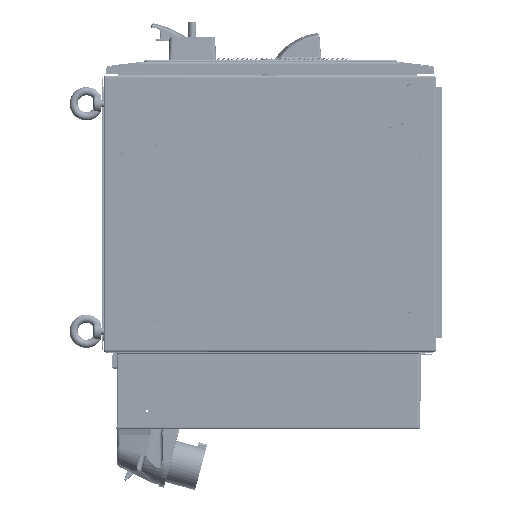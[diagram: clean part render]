
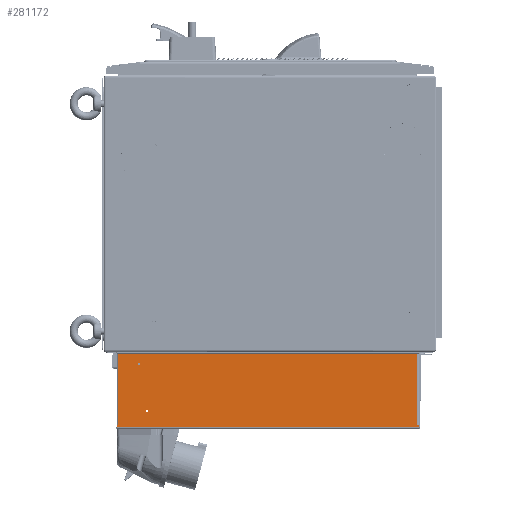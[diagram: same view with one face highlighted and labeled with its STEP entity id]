
A CAD part, left-side view. The second image highlights one B-rep face of the part: STEP entity #281172.
In plain terms, the highlighted planar face has unit normal (-1, 0, 0).
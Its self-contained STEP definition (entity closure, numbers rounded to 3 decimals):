
#2441 = AXIS2_PLACEMENT_3D ( 'NONE', #910513, #693181, #239432 ) ;
#22171 = LINE ( 'NONE', #308472, #426024 ) ;
#29174 = DIRECTION ( 'NONE',  ( 0., 0., 1. ) ) ;
#30072 = VECTOR ( 'NONE', #904820, 1000. ) ;
#33285 = VECTOR ( 'NONE', #832707, 1000. ) ;
#50266 = VERTEX_POINT ( 'NONE', #597811 ) ;
#55801 = EDGE_LOOP ( 'NONE', ( #224767, #88664 ) ) ;
#88664 = ORIENTED_EDGE ( 'NONE', *, *, #134381, .F. ) ;
#90083 = CARTESIAN_POINT ( 'NONE',  ( -276.25, 245.75, -317.25 ) ) ;
#103016 = CARTESIAN_POINT ( 'NONE',  ( -276.25, 245.75, -314.6 ) ) ;
#112045 = CARTESIAN_POINT ( 'NONE',  ( -276.25, 245.75, -311.15 ) ) ;
#116434 = EDGE_LOOP ( 'NONE', ( #744431, #830665 ) ) ;
#134381 = EDGE_CURVE ( 'NONE', #369890, #546132, #890930, .T. ) ;
#140425 = ORIENTED_EDGE ( 'NONE', *, *, #667400, .T. ) ;
#146622 = DIRECTION ( 'NONE',  ( 0., -1., 0. ) ) ;
#149500 = FACE_BOUND ( 'NONE', #55801, .T. ) ;
#150439 = VERTEX_POINT ( 'NONE', #455138 ) ;
#162957 = EDGE_CURVE ( 'NONE', #50266, #600506, #900165, .T. ) ;
#164318 = ORIENTED_EDGE ( 'NONE', *, *, #868021, .T. ) ;
#170506 = CARTESIAN_POINT ( 'NONE',  ( -276.25, 22.891, -206.65 ) ) ;
#173113 = ORIENTED_EDGE ( 'NONE', *, *, #162957, .T. ) ;
#177090 = LINE ( 'NONE', #103016, #676890 ) ;
#183724 = DIRECTION ( 'NONE',  ( 0., 0., 1. ) ) ;
#198644 = EDGE_CURVE ( 'NONE', #672262, #366120, #521583, .T. ) ;
#200222 = EDGE_CURVE ( 'NONE', #750691, #406446, #22171, .T. ) ;
#214067 = EDGE_CURVE ( 'NONE', #672262, #343340, #527508, .T. ) ;
#218637 = FACE_OUTER_BOUND ( 'NONE', #685866, .T. ) ;
#223961 = DIRECTION ( 'NONE',  ( 0., -1., 0. ) ) ;
#224210 = DIRECTION ( 'NONE',  ( 0., 0., -1. ) ) ;
#224767 = ORIENTED_EDGE ( 'NONE', *, *, #231403, .F. ) ;
#231403 = EDGE_CURVE ( 'NONE', #546132, #369890, #743235, .T. ) ;
#231734 = DIRECTION ( 'NONE',  ( 0., -1., 0. ) ) ;
#233300 = DIRECTION ( 'NONE',  ( -1., 0., 0. ) ) ;
#233713 = LINE ( 'NONE', #524940, #526774 ) ;
#239432 = DIRECTION ( 'NONE',  ( 0., 0., 1. ) ) ;
#241459 = ORIENTED_EDGE ( 'NONE', *, *, #481283, .T. ) ;
#248927 = VECTOR ( 'NONE', #898784, 1000. ) ;
#265659 = VERTEX_POINT ( 'NONE', #334608 ) ;
#279738 = CARTESIAN_POINT ( 'NONE',  ( -276.25, 245.75, -311.15 ) ) ;
#281172 = ADVANCED_FACE ( 'NONE', ( #593645, #149500, #218637 ), #751440, .T. ) ;
#302179 = AXIS2_PLACEMENT_3D ( 'NONE', #474853, #405682, #183724 ) ;
#308401 = DIRECTION ( 'NONE',  ( 0., 0., -1. ) ) ;
#308472 = CARTESIAN_POINT ( 'NONE',  ( -276.25, 25.541, -311.15 ) ) ;
#308478 = CIRCLE ( 'NONE', #323973, 1.75 ) ;
#311503 = CARTESIAN_POINT ( 'NONE',  ( -276.25, 468.609, -317.25 ) ) ;
#319627 = CARTESIAN_POINT ( 'NONE',  ( -276.25, 468.609, -207. ) ) ;
#323973 = AXIS2_PLACEMENT_3D ( 'NONE', #867754, #788897, #29174 ) ;
#334608 = CARTESIAN_POINT ( 'NONE',  ( -276.25, 435.455, -223.363 ) ) ;
#343340 = VERTEX_POINT ( 'NONE', #319627 ) ;
#346581 = ORIENTED_EDGE ( 'NONE', *, *, #622756, .F. ) ;
#366120 = VERTEX_POINT ( 'NONE', #170506 ) ;
#369890 = VERTEX_POINT ( 'NONE', #728665 ) ;
#374512 = CARTESIAN_POINT ( 'NONE',  ( -276.25, 468.609, -317.25 ) ) ;
#376822 = CARTESIAN_POINT ( 'NONE',  ( -276.25, 245.75, -207. ) ) ;
#386560 = AXIS2_PLACEMENT_3D ( 'NONE', #905785, #516241, #743165 ) ;
#392088 = DIRECTION ( 'NONE',  ( 0., 0., 1. ) ) ;
#405682 = DIRECTION ( 'NONE',  ( -1., 0., 0. ) ) ;
#406446 = VERTEX_POINT ( 'NONE', #668258 ) ;
#409657 = EDGE_CURVE ( 'NONE', #885200, #265659, #821933, .T. ) ;
#415524 = CARTESIAN_POINT ( 'NONE',  ( -276.25, 423.3, -288.8 ) ) ;
#426024 = VECTOR ( 'NONE', #392088, 1000. ) ;
#432413 = LINE ( 'NONE', #112045, #959716 ) ;
#455124 = EDGE_CURVE ( 'NONE', #366120, #503090, #525612, .T. ) ;
#455138 = CARTESIAN_POINT ( 'NONE',  ( -276.25, 468.609, -311.15 ) ) ;
#462503 = CARTESIAN_POINT ( 'NONE',  ( -276.25, 22.891, -317.25 ) ) ;
#464120 = ORIENTED_EDGE ( 'NONE', *, *, #200222, .T. ) ;
#474853 = CARTESIAN_POINT ( 'NONE',  ( -276.25, 435.455, -221.613 ) ) ;
#479579 = DIRECTION ( 'NONE',  ( 0., 0., 1. ) ) ;
#481283 = EDGE_CURVE ( 'NONE', #343340, #50266, #233713, .T. ) ;
#496955 = LINE ( 'NONE', #279738, #656228 ) ;
#503090 = VERTEX_POINT ( 'NONE', #653783 ) ;
#516241 = DIRECTION ( 'NONE',  ( -1., 0., 0. ) ) ;
#521583 = LINE ( 'NONE', #822453, #957790 ) ;
#524940 = CARTESIAN_POINT ( 'NONE',  ( -276.25, 245.75, -207. ) ) ;
#525612 = LINE ( 'NONE', #545062, #934609 ) ;
#526774 = VECTOR ( 'NONE', #223961, 1000. ) ;
#527508 = LINE ( 'NONE', #374512, #956275 ) ;
#534842 = ORIENTED_EDGE ( 'NONE', *, *, #455124, .F. ) ;
#545062 = CARTESIAN_POINT ( 'NONE',  ( -276.25, 22.891, -317.25 ) ) ;
#546132 = VERTEX_POINT ( 'NONE', #415524 ) ;
#556122 = ORIENTED_EDGE ( 'NONE', *, *, #900364, .T. ) ;
#569069 = ORIENTED_EDGE ( 'NONE', *, *, #800734, .T. ) ;
#571120 = ORIENTED_EDGE ( 'NONE', *, *, #198644, .F. ) ;
#577205 = CARTESIAN_POINT ( 'NONE',  ( -276.25, 468.609, -314.6 ) ) ;
#583778 = VERTEX_POINT ( 'NONE', #934291 ) ;
#593645 = FACE_BOUND ( 'NONE', #116434, .T. ) ;
#597811 = CARTESIAN_POINT ( 'NONE',  ( -276.25, 465.959, -207. ) ) ;
#600506 = VERTEX_POINT ( 'NONE', #846952 ) ;
#603626 = VERTEX_POINT ( 'NONE', #577205 ) ;
#605645 = LINE ( 'NONE', #462503, #33285 ) ;
#622756 = EDGE_CURVE ( 'NONE', #667186, #583778, #605645, .T. ) ;
#627837 = ORIENTED_EDGE ( 'NONE', *, *, #885209, .T. ) ;
#628001 = AXIS2_PLACEMENT_3D ( 'NONE', #90083, #233300, #479579 ) ;
#630146 = CARTESIAN_POINT ( 'NONE',  ( -276.25, 22.891, -311.15 ) ) ;
#653783 = CARTESIAN_POINT ( 'NONE',  ( -276.25, 22.891, -207. ) ) ;
#656228 = VECTOR ( 'NONE', #723952, 1000. ) ;
#659442 = CARTESIAN_POINT ( 'NONE',  ( -276.25, 435.455, -219.863 ) ) ;
#665861 = EDGE_CURVE ( 'NONE', #265659, #885200, #308478, .T. ) ;
#667186 = VERTEX_POINT ( 'NONE', #630146 ) ;
#667400 = EDGE_CURVE ( 'NONE', #667186, #750691, #432413, .T. ) ;
#668258 = CARTESIAN_POINT ( 'NONE',  ( -276.25, 25.541, -207. ) ) ;
#672262 = VERTEX_POINT ( 'NONE', #792272 ) ;
#676890 = VECTOR ( 'NONE', #231734, 1000. ) ;
#685866 = EDGE_LOOP ( 'NONE', ( #346581, #140425, #464120, #569069, #534842, #571120, #889160, #241459, #173113, #627837, #556122, #164318 ) ) ;
#693181 = DIRECTION ( 'NONE',  ( -1., 0., 0. ) ) ;
#723952 = DIRECTION ( 'NONE',  ( 0., 1., 0. ) ) ;
#728665 = CARTESIAN_POINT ( 'NONE',  ( -276.25, 423.3, -292.3 ) ) ;
#738905 = CARTESIAN_POINT ( 'NONE',  ( -276.25, 25.541, -311.15 ) ) ;
#743165 = DIRECTION ( 'NONE',  ( 0., 0., 1. ) ) ;
#743235 = CIRCLE ( 'NONE', #2441, 1.75 ) ;
#744431 = ORIENTED_EDGE ( 'NONE', *, *, #409657, .F. ) ;
#745857 = LINE ( 'NONE', #311503, #248927 ) ;
#750691 = VERTEX_POINT ( 'NONE', #738905 ) ;
#751440 = PLANE ( 'NONE',  #628001 ) ;
#788897 = DIRECTION ( 'NONE',  ( -1., 0., 0. ) ) ;
#792272 = CARTESIAN_POINT ( 'NONE',  ( -276.25, 468.609, -206.65 ) ) ;
#800734 = EDGE_CURVE ( 'NONE', #406446, #503090, #816160, .T. ) ;
#816160 = LINE ( 'NONE', #376822, #30072 ) ;
#818745 = DIRECTION ( 'NONE',  ( 0., 0., -1. ) ) ;
#821933 = CIRCLE ( 'NONE', #302179, 1.75 ) ;
#822453 = CARTESIAN_POINT ( 'NONE',  ( -276.25, 468.609, -206.65 ) ) ;
#830665 = ORIENTED_EDGE ( 'NONE', *, *, #665861, .F. ) ;
#832707 = DIRECTION ( 'NONE',  ( 0., 0., -1. ) ) ;
#846952 = CARTESIAN_POINT ( 'NONE',  ( -276.25, 465.959, -311.15 ) ) ;
#867754 = CARTESIAN_POINT ( 'NONE',  ( -276.25, 435.455, -221.613 ) ) ;
#868021 = EDGE_CURVE ( 'NONE', #603626, #583778, #177090, .T. ) ;
#885200 = VERTEX_POINT ( 'NONE', #659442 ) ;
#885209 = EDGE_CURVE ( 'NONE', #600506, #150439, #496955, .T. ) ;
#889160 = ORIENTED_EDGE ( 'NONE', *, *, #214067, .T. ) ;
#890930 = CIRCLE ( 'NONE', #386560, 1.75 ) ;
#898784 = DIRECTION ( 'NONE',  ( 0., 0., -1. ) ) ;
#900165 = LINE ( 'NONE', #914759, #957705 ) ;
#900364 = EDGE_CURVE ( 'NONE', #150439, #603626, #745857, .T. ) ;
#904820 = DIRECTION ( 'NONE',  ( 0., -1., 0. ) ) ;
#905785 = CARTESIAN_POINT ( 'NONE',  ( -276.25, 423.3, -290.55 ) ) ;
#910513 = CARTESIAN_POINT ( 'NONE',  ( -276.25, 423.3, -290.55 ) ) ;
#914759 = CARTESIAN_POINT ( 'NONE',  ( -276.25, 465.959, -207. ) ) ;
#934291 = CARTESIAN_POINT ( 'NONE',  ( -276.25, 22.891, -314.6 ) ) ;
#934609 = VECTOR ( 'NONE', #308401, 1000. ) ;
#945721 = DIRECTION ( 'NONE',  ( 0., 1., 0. ) ) ;
#956275 = VECTOR ( 'NONE', #818745, 1000. ) ;
#957705 = VECTOR ( 'NONE', #224210, 1000. ) ;
#957790 = VECTOR ( 'NONE', #146622, 1000. ) ;
#959716 = VECTOR ( 'NONE', #945721, 1000. ) ;
